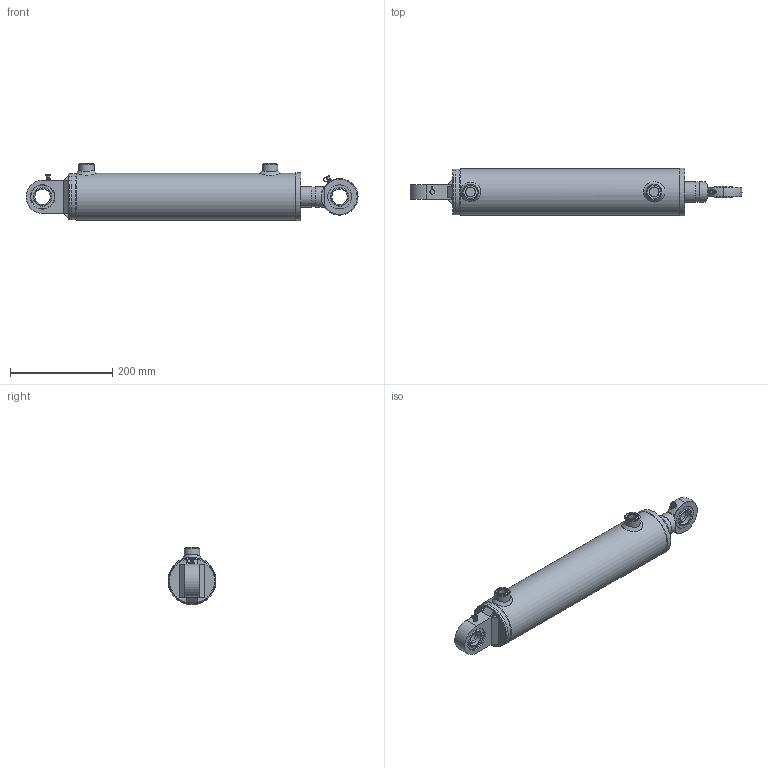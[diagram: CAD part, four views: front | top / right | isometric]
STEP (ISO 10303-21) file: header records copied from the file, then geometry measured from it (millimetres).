
FILE_DESCRIPTION( ( 'Unknown' ), '1' );
FILE_NAME( 'E:/LIBRERIA_3d/CILINDRI/HMB/hmb5400300.stp', 'Unknown', ( 'Unknown' ), ( 'Unknown' ), 'PSStep 17.0.49', 'Unknown', ' ' );
FILE_SCHEMA( ( 'AUTOMOTIVE_DESIGN { 1 0 10303 214 1 1 1 1 }' ) );
Length unit declared in the file: millimetre
Products named in the file (43): CSTSF030N0-oa3; AN000060001; CSAI002047; CSAI002047-oa1; CSTS030N_CORPO-oa2; CT00080027; CG09508040; CSTSF030C0; tsc30c_CORPO; AN00006001; STL5600300-oa11; Saldatura d'angolo 1-oa9; FTM5600300-oa10; CBSC220800; CSTS030N00; CGE0300000-oa0; APGR013000; CSTS030C00; CGE0300000; HM05400300; Saldatura con preparazione 1-oa7; Saldatura d'angolo 1-oa8; CF00080090; CBS0800000; CDA0002720; APG0800000; SBL4050300; Assem1; Saldatura d'angolo 1-oa4; Saldatura d'angolo 2-oa5; Saldatura d'angolo 3-oa6
Assembly tree (30 placements, depth 4):
  Saldatura d'angolo 1-oa9
  Saldatura d'angolo 1-oa9
  Saldatura d'angolo 1-oa8
  Saldatura d'angolo 1-oa8
  Assem1
    CSTS030C00
      CGE0300000
      APGR013000
      CSTSF030C0
        tsc30c_CORPO
        AN00006001
    CSTS030N00
      CGE0300000-oa0
      APGR013000
      CSTSF030N0-oa3
        AN000060001
        CSAI002047
        CSAI002047-oa1
        CSTS030N_CORPO-oa2
    HM05400300
      Saldatura con preparazione 1-oa7
      Saldatura con preparazione 1-oa7
      CF00080090
      CBS0800000
      CDA0002720
      APG0800000  x2
      SBL4050300
      CG09508040
        CG09508040
      CT00080027
        CT00080027
      STL5600300-oa11
        FTM5600300-oa10
        CBSC220800
Bounding box: 650.5 x 94 x 113 mm (x, y, z)
Volume: 1962348.6 mm3; surface area: 483498.6 mm2
Topology: 36 solids, 36 shells, 386 faces, 785 edges, 500 vertices
Faces by surface type: plane 166, cylinder 95, torus 48, cone 45, bspline 25, sphere 7
Full cylindrical faces by diameter (mm): 2.5 x4, 4 x1, 4.25 x2, 4.917 x1, 5 x5, 6 x2, 8 x4, 9 x2, 12 x1, 18.631 x2, 19.5 x2, 20.95 x2, 26 x2, 26.4 x1, 27 x5, 30 x6, 33.2 x1, 40 x6, 41 x1, 43 x3, 45 x2, 47 x8, 48.6 x1, 50 x1, 60 x1, 74.16 x2, 75 x1, 78.34 x2, 79.9 x1, 80 x1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
Entity records: 16472 total; most frequent: CARTESIAN_POINT 6746, DIRECTION 1500, ORIENTED_EDGE 974, AXIS2_PLACEMENT_3D 669, EDGE_LOOP 630, FACE_OUTER_BOUND 504, EDGE_CURVE 487, VERTEX_POINT 414
